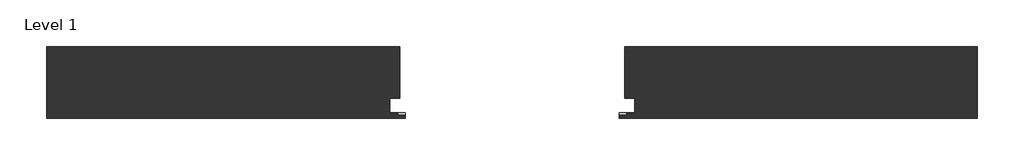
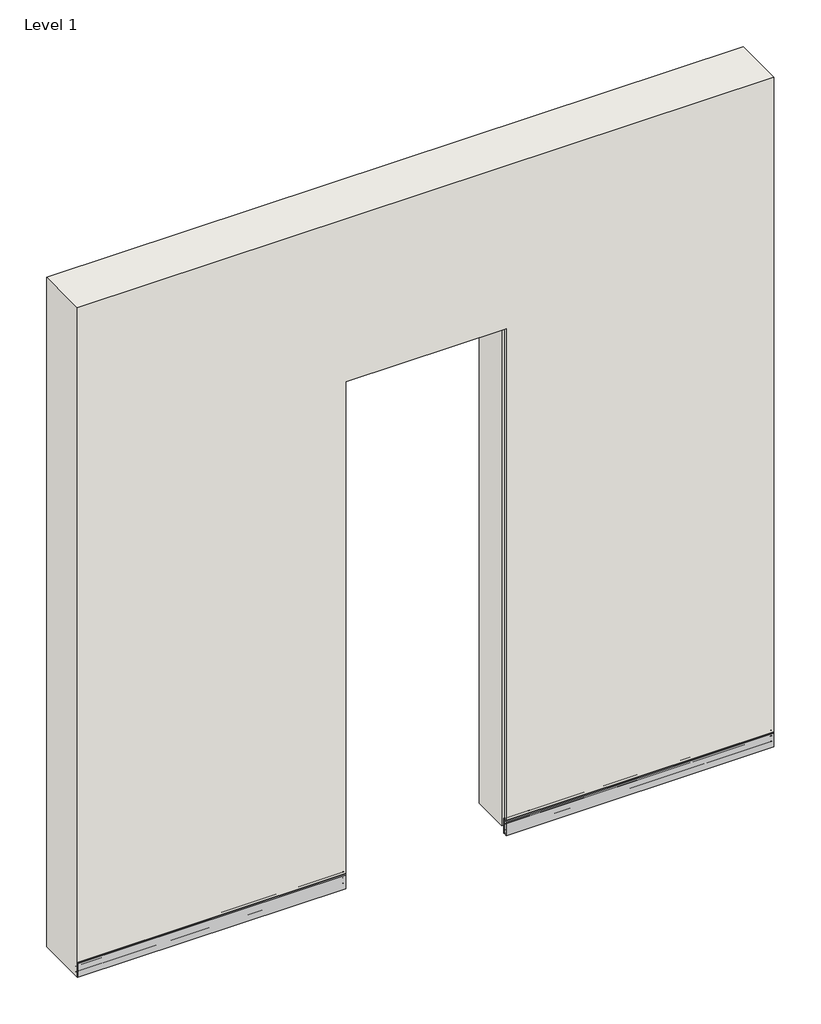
# One storey, incomplete: 2 proxies, 1 wall.
"""IFC4 building model written with IfcOpenShell, lengths in millimetres."""

from ifc_helpers import new_model, si_unit, origin, place, context, project, spatial, faceted_brep, transform, mapped, element, save
from components import generic_models_89d77330

model = new_model("IFC4")

# Units and contexts
model_context = context("Model", 3, world=origin())
ifc_project = project(units=[si_unit("LENGTHUNIT", "METRE", prefix="MILLI")], contexts=[model_context])

# Site, building, storey
site = spatial("IfcSite", under=ifc_project)
building = spatial("IfcBuilding", under=site)
storey = spatial("IfcBuildingStorey", under=building, Name="Level 1", Elevation=0.0)

# Proxies
placement = place(None, origin())
generic_models_shape = generic_models_89d77330(model_context)
element("IfcBuildingElementProxy", 1, Name="BATTISCOPA : BATTISCOPA", ObjectType="BATTISCOPA : BATTISCOPA", at=placement, inside=storey, context=model_context, shape_type="MappedRepresentation", body=[
    mapped(generic_models_shape, transform((-3019.8885133, 196.9305817, 0.0), x_axis=(1.0, 0.0, 0.0), y_axis=(0.0, 0.0, 1.0), z_axis=(0.0, -1.0, 0.0))),
])
element("IfcBuildingElementProxy", 2, Name="BATTISCOPA : BATTISCOPA", ObjectType="BATTISCOPA : BATTISCOPA", at=placement, inside=storey, context=model_context, shape_type="MappedRepresentation", body=[
    mapped(generic_models_shape, transform((-4618.2885821, 196.9305817, 0.0), x_axis=(1.0, 0.0, 0.0), y_axis=(0.0, 0.0, 1.0), z_axis=(0.0, -1.0, 0.0))),
])

# Wall
element("IfcWall", 3, ObjectType="Generic - 200mm", at=placement, inside=storey, context=model_context, shape_type="Brep", body=[
    faceted_brep([(-2519.8885133, 196.9305817, 2642.3945659), (-5119.8885133, 196.9305817, 2642.3945659), (-5119.8885133, 196.9305817, 0.0), (-5118.2885821, 196.9305817, 0.0), (-5118.2885821, 196.9305817, 60.0), (-4118.2885477, 196.9305817, 60.0), (-4118.2885477, 196.9305817, 1999.9), (-3519.8885477, 196.9305817, 1999.9), (-3519.8885477, 196.9305817, 60.0), (-2519.8885133, 196.9305817, 60.0), (-2519.8885133, 396.9305817, 2642.3945659), (-2519.8885133, 396.9305817, 0.0), (-3504.8885133, 396.9305817, 0.0), (-3504.8885133, 396.9305817, 2014.9000344), (-4133.2885821, 396.9305817, 2014.9000344), (-4133.2885821, 396.9305817, 0.0), (-5119.8885133, 396.9305817, 0.0), (-5119.8885133, 396.9305817, 2642.3945659), (-4133.2885821, 252.4305817, 0.0), (-4161.5885477, 252.4305817, 0.0), (-4161.5885477, 211.9305817, 0.0), (-5118.2885821, 211.9305817, 0.0), (-3476.5885477, 252.4305817, 0.0), (-3504.8885133, 252.4305817, 0.0), (-2519.8885133, 211.9305817, 0.0), (-3476.5885477, 211.9305817, 0.0), (-2519.8885133, 211.9305817, 60.0), (-4133.2885821, 252.4305817, 2014.9000344), (-4139.0885641, 205.4305834, 2020.7000164), (-3499.0885313, 205.4305834, 2020.7000164), (-3499.0885313, 205.4305834, 60.0), (-3519.8885477, 205.4305834, 60.0), (-3519.8885477, 205.4305834, 1999.9), (-4118.2885477, 205.4305834, 1999.9), (-4118.2885477, 205.4305834, 60.0), (-4139.0885641, 205.4305834, 60.0), (-4139.0885641, 209.9305834, 2020.7000164), (-4139.0885641, 209.9305834, 60.0), (-4161.5885477, 209.9305834, 2043.2), (-3476.5885477, 209.9305834, 2043.2), (-3476.5885477, 209.9305834, 60.0), (-3499.0885313, 209.9305834, 60.0), (-3499.0885313, 209.9305834, 2020.7000164), (-4161.5885477, 209.9305834, 60.0), (-4161.5885477, 252.4305817, 2043.2), (-4161.5885477, 211.9305817, 60.0), (-3504.8885133, 252.4305817, 2014.9000344), (-3476.5885477, 252.4305817, 2043.2), (-3476.5885477, 211.9305817, 60.0), (-5118.2885821, 211.9305817, 60.0)], [[[0, 1, 2, 3, 4, 5, 6, 7, 8, 9]], [[10, 11, 12, 13, 14, 15, 16, 17]], [[2, 16, 15, 18, 19, 20, 21, 3]], [[22, 23, 12, 11, 24, 25]], [[11, 10, 0, 9, 26, 24]], [[1, 0, 10, 17]], [[2, 1, 17, 16]], [[14, 27, 18, 15]], [[28, 29, 30, 31, 32, 33, 34, 35]], [[36, 28, 35, 37]], [[38, 39, 40, 41, 42, 36, 37, 43]], [[19, 44, 38, 43, 45, 20]], [[18, 27, 46, 23, 22, 47, 44, 19]], [[27, 14, 13, 46]], [[29, 28, 36, 42]], [[39, 38, 44, 47]], [[23, 46, 13, 12]], [[29, 42, 41, 30]], [[47, 22, 25, 48, 40, 39]], [[33, 6, 5, 34]], [[7, 32, 31, 8]], [[7, 6, 33, 32]], [[25, 24, 26, 48]], [[9, 8, 31, 30, 41, 40, 48, 26]], [[21, 49, 4, 3]], [[49, 21, 20, 45]], [[4, 49, 45, 43, 37, 35, 34, 5]]]),
])

save(model, "model.ifc")
